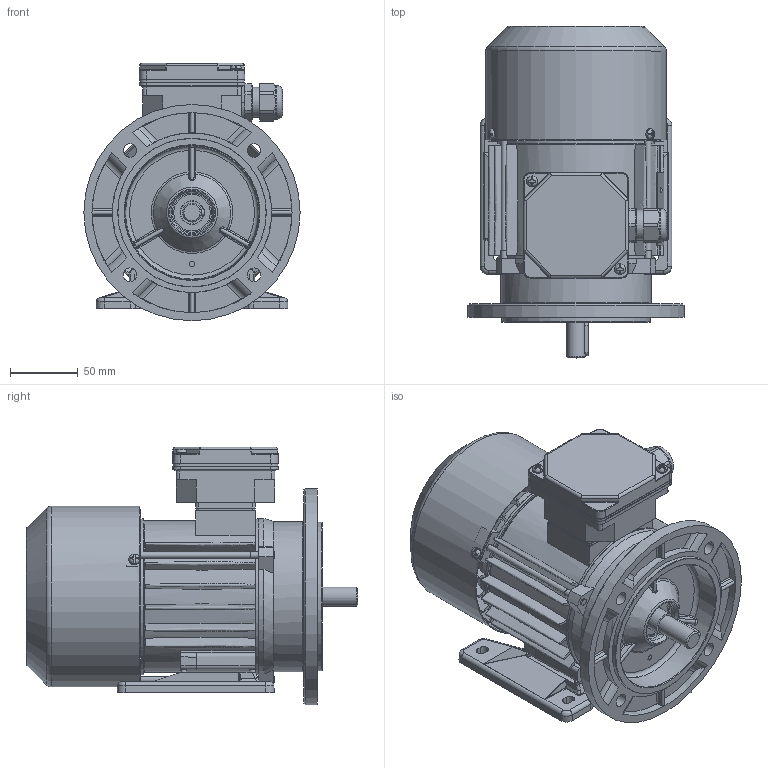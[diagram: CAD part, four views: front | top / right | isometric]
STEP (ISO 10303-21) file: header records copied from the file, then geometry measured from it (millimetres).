
FILE_DESCRIPTION(/* description */ ('Unknown'),/* implementation_level */ '2;1');
FILE_NAME(/* name */ '2SIEL71-8B',/* time_stamp */ '2021-04-13T15:27:58+02:00',/* author */ ('Unknown'),/* organization */ ('Unknown'),/* preprocessor_version */ 'ST-DEVELOPER v16.7',/* originating_system */ 'Solid Edge',/* authorisation */ 'Unknown');
FILE_SCHEMA (('AP203_CONFIGURATION_CONTROLLED_3D_DESIGN_OF_MECHANICAL_PARTS_AND_ASSEMBLIES_MIM_LF { 1 0 10303 203 3 1 4 }','AUTOMOTIVE_DESIGN { 1 0 10303 214 3 1 1 }','AUTOMOTIVE_DESIGN {1 0 10303 214 3 1 1}'));
Products named in the file (1): 2SIEL71-8B
Bounding box: 160 x 245.49 x 190.5 mm (x, y, z)
Volume: 761108.9 mm3; surface area: 433928.6 mm2
Topology: 2 solids, 2 shells, 2476 faces, 6894 edges, 4410 vertices
Faces by surface type: plane 1030, cylinder 720, bspline 384, torus 173, cone 143, sphere 26
Full cylindrical faces by diameter (mm): 3.7 x4, 3.8 x4, 4 x3, 4.6 x3, 4.8 x2, 5 x8, 5.5 x3, 5.8 x4, 7 x1, 8 x9, 10 x4, 13.999 x1, 15.898 x1, 16.098 x1, 16.498 x1, 16.998 x2, 17.4 x2, 21.998 x2, 22.3 x1, 22.498 x1, 22.998 x1, 23.098 x1, 24.496 x4, 25 x1, 27 x1, 28 x1, 30 x1, 31 x1, 32.502 x4, 36 x2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
Entity records: 105478 total; most frequent: CARTESIAN_POINT 28856, ORIENTED_EDGE 13086, DIRECTION 11333, EDGE_CURVE 6543, VERTEX_POINT 4291, AXIS2_PLACEMENT_3D 4235, FACE_BOUND 2892, EDGE_LOOP 2888
